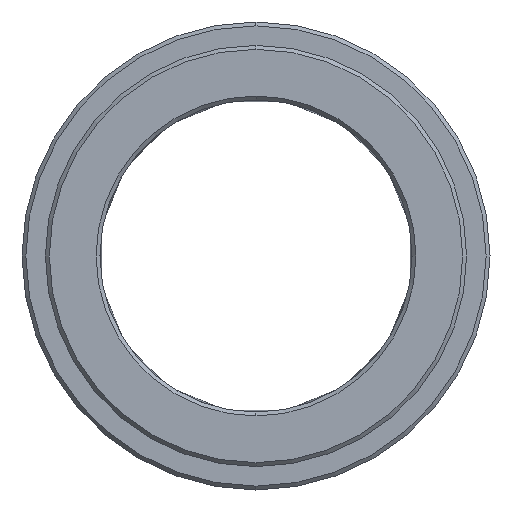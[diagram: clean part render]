
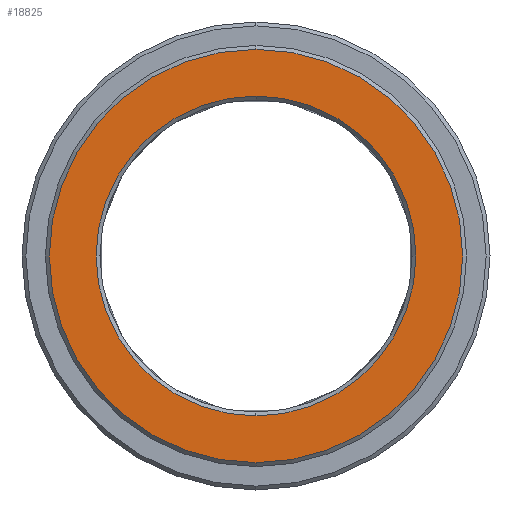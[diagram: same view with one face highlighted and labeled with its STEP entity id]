
A CAD part, left-side view. The second image highlights one B-rep face of the part: STEP entity #18825.
In plain terms, the highlighted planar face has unit normal (-1, 0, 0).
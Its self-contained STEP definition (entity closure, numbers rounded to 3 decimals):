
#13234=CARTESIAN_POINT('',(-10.,0.,
0.));
#13235=DIRECTION('',(1.,0.,0.));
#13236=DIRECTION('',(0.,0.,1.));
#13237=AXIS2_PLACEMENT_3D('',#13234,#13235,#13236);
#13239=CARTESIAN_POINT('',(-10.,0.,
0.));
#13240=DIRECTION('',(1.,0.,0.));
#13241=DIRECTION('',(0.,0.,-1.));
#13242=AXIS2_PLACEMENT_3D('',#13239,#13240,#13241);
#13244=CARTESIAN_POINT('',(-10.,0.,
0.));
#13245=DIRECTION('',(1.,0.,0.));
#13246=DIRECTION('',(0.,0.,1.));
#13247=AXIS2_PLACEMENT_3D('',#13244,#13245,#13246);
#13249=CARTESIAN_POINT('',(-10.,0.,
0.));
#13250=DIRECTION('',(1.,0.,0.));
#13251=DIRECTION('',(0.,0.,-1.));
#13252=AXIS2_PLACEMENT_3D('',#13249,#13250,#13251);
#13952=CARTESIAN_POINT('',(-10.,0.,20.5));
#13953=CARTESIAN_POINT('',(-10.,0.,-20.5));
#13954=VERTEX_POINT('',#13952);
#13955=VERTEX_POINT('',#13953);
#13960=CARTESIAN_POINT('',(-10.,0.,26.5));
#13961=CARTESIAN_POINT('',(-10.,0.,
-26.5));
#13962=VERTEX_POINT('',#13960);
#13963=VERTEX_POINT('',#13961);
#18810=CARTESIAN_POINT('',(-10.,0.,0.));
#18811=DIRECTION('',(1.,0.,0.));
#18812=DIRECTION('',(0.,0.,1.));
#18813=AXIS2_PLACEMENT_3D('',#18810,#18811,#18812);
#18814=PLANE('',#18813);
#18815=ORIENTED_EDGE('',*,*,#18777,.T.);
#18816=ORIENTED_EDGE('',*,*,#18792,.T.);
#18817=EDGE_LOOP('',(#18815,#18816));
#18818=FACE_OUTER_BOUND('',#18817,.F.);
#18820=ORIENTED_EDGE('',*,*,#18819,.F.);
#18822=ORIENTED_EDGE('',*,*,#18821,.F.);
#18823=EDGE_LOOP('',(#18820,#18822));
#18824=FACE_BOUND('',#18823,.F.);
#18825=ADVANCED_FACE('',(#18818,#18824),#18814,.F.);
#13238=CIRCLE('',#13237,26.5);
#13243=CIRCLE('',#13242,26.5);
#13248=CIRCLE('',#13247,20.5);
#13253=CIRCLE('',#13252,20.5);
#18777=EDGE_CURVE('',#13962,#13963,#13238,.T.);
#18792=EDGE_CURVE('',#13963,#13962,#13243,.T.);
#18819=EDGE_CURVE('',#13954,#13955,#13248,.T.);
#18821=EDGE_CURVE('',#13955,#13954,#13253,.T.);
